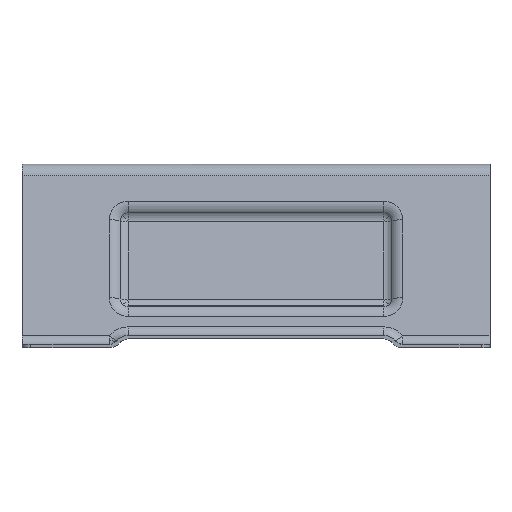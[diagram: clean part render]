
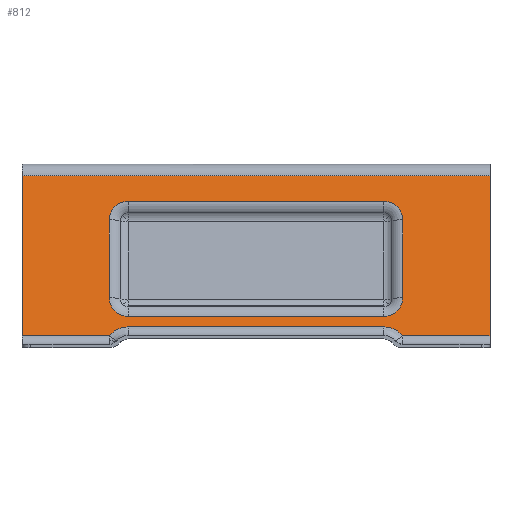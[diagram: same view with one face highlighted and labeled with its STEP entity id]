
A CAD part, left-side view. The second image highlights one B-rep face of the part: STEP entity #812.
In plain terms, the highlighted planar face has unit normal (-0.979, 0, 0.203).
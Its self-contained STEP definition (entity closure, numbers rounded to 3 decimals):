
#440=CARTESIAN_POINT('Vertex',(-474.382,-861.,100.023)) ;
#443=CARTESIAN_POINT('Line Origine',(-483.738,-861.,54.853)) ;
#447=CARTESIAN_POINT('Vertex',(-493.095,-861.,9.683)) ;
#656=CARTESIAN_POINT('Vertex',(-493.095,-811.724,9.683)) ;
#666=CARTESIAN_POINT('Line Origine',(-493.095,-729.,9.683)) ;
#679=CARTESIAN_POINT('Axis2P3D Location',(-473.061,-729.,106.4)) ;
#684=CARTESIAN_POINT('Line Origine',(-492.059,-729.,14.683)) ;
#688=CARTESIAN_POINT('Vertex',(-492.059,-801.,14.683)) ;
#690=CARTESIAN_POINT('Vertex',(-492.059,-657.,14.683)) ;
#694=CARTESIAN_POINT('Control Point',(-493.095,-811.724,9.683)) ;
#695=CARTESIAN_POINT('Control Point',(-492.893,-810.91,10.654)) ;
#696=CARTESIAN_POINT('Control Point',(-492.711,-809.983,11.535)) ;
#697=CARTESIAN_POINT('Control Point',(-492.551,-808.957,12.308)) ;
#698=CARTESIAN_POINT('Control Point',(-492.293,-806.839,13.554)) ;
#699=CARTESIAN_POINT('Control Point',(-492.135,-804.496,14.315)) ;
#700=CARTESIAN_POINT('Control Point',(-492.084,-803.343,14.561)) ;
#701=CARTESIAN_POINT('Control Point',(-492.059,-802.172,14.683)) ;
#702=CARTESIAN_POINT('Control Point',(-492.059,-801.,14.683)) ;
#704=CARTESIAN_POINT('Line Origine',(-474.382,-729.,100.023)) ;
#708=CARTESIAN_POINT('Vertex',(-474.382,-597.,100.023)) ;
#711=CARTESIAN_POINT('Line Origine',(-483.738,-597.,54.853)) ;
#715=CARTESIAN_POINT('Vertex',(-493.095,-597.,9.683)) ;
#718=CARTESIAN_POINT('Line Origine',(-493.095,-621.639,9.683)) ;
#722=CARTESIAN_POINT('Vertex',(-493.095,-646.277,9.683)) ;
#726=CARTESIAN_POINT('Control Point',(-492.059,-657.,14.683)) ;
#727=CARTESIAN_POINT('Control Point',(-492.059,-655.729,14.683)) ;
#728=CARTESIAN_POINT('Control Point',(-492.089,-654.457,14.539)) ;
#729=CARTESIAN_POINT('Control Point',(-492.149,-653.208,14.249)) ;
#730=CARTESIAN_POINT('Control Point',(-492.32,-650.885,13.425)) ;
#731=CARTESIAN_POINT('Control Point',(-492.589,-648.804,12.124)) ;
#732=CARTESIAN_POINT('Control Point',(-492.74,-647.873,11.396)) ;
#733=CARTESIAN_POINT('Control Point',(-492.909,-647.027,10.578)) ;
#734=CARTESIAN_POINT('Control Point',(-493.095,-646.277,9.683)) ;
#746=CARTESIAN_POINT('Line Origine',(-477.377,-729.,85.561)) ;
#750=CARTESIAN_POINT('Vertex',(-477.377,-801.,85.561)) ;
#752=CARTESIAN_POINT('Vertex',(-477.377,-657.,85.561)) ;
#755=CARTESIAN_POINT('Axis2P3D Location',(-479.552,-801.,75.06)) ;
#759=CARTESIAN_POINT('Vertex',(-479.552,-811.724,75.06)) ;
#762=CARTESIAN_POINT('Line Origine',(-484.11,-811.724,53.06)) ;
#766=CARTESIAN_POINT('Vertex',(-488.667,-811.724,31.06)) ;
#769=CARTESIAN_POINT('Axis2P3D Location',(-488.667,-801.,31.06)) ;
#773=CARTESIAN_POINT('Vertex',(-490.842,-801.,20.559)) ;
#776=CARTESIAN_POINT('Line Origine',(-490.842,-729.,20.559)) ;
#780=CARTESIAN_POINT('Vertex',(-490.842,-657.,20.559)) ;
#783=CARTESIAN_POINT('Axis2P3D Location',(-488.667,-657.,31.06)) ;
#787=CARTESIAN_POINT('Vertex',(-488.667,-646.277,31.06)) ;
#790=CARTESIAN_POINT('Line Origine',(-484.11,-646.277,53.06)) ;
#794=CARTESIAN_POINT('Vertex',(-479.552,-646.277,75.06)) ;
#797=CARTESIAN_POINT('Axis2P3D Location',(-479.552,-657.,75.06)) ;
#444=DIRECTION('Vector Direction',(-0.203,0.,-0.979)) ;
#667=DIRECTION('Vector Direction',(0.,1.,0.)) ;
#680=DIRECTION('Axis2P3D Direction',(0.979,0.,-0.203)) ;
#681=DIRECTION('Axis2P3D XDirection',(-0.203,0.,-0.979)) ;
#685=DIRECTION('Vector Direction',(0.,-1.,0.)) ;
#705=DIRECTION('Vector Direction',(0.,1.,0.)) ;
#712=DIRECTION('Vector Direction',(-0.203,0.,-0.979)) ;
#719=DIRECTION('Vector Direction',(0.,1.,0.)) ;
#747=DIRECTION('Vector Direction',(0.,-1.,0.)) ;
#756=DIRECTION('Axis2P3D Direction',(0.979,0.,-0.203)) ;
#763=DIRECTION('Vector Direction',(-0.203,0.,-0.979)) ;
#770=DIRECTION('Axis2P3D Direction',(0.979,0.,-0.203)) ;
#777=DIRECTION('Vector Direction',(0.,1.,0.)) ;
#784=DIRECTION('Axis2P3D Direction',(0.979,0.,-0.203)) ;
#791=DIRECTION('Vector Direction',(0.203,0.,0.979)) ;
#798=DIRECTION('Axis2P3D Direction',(0.979,0.,-0.203)) ;
#682=AXIS2_PLACEMENT_3D('Plane Axis2P3D',#679,#680,#681) ;
#757=AXIS2_PLACEMENT_3D('Circle Axis2P3D',#755,#756,$) ;
#771=AXIS2_PLACEMENT_3D('Circle Axis2P3D',#769,#770,$) ;
#785=AXIS2_PLACEMENT_3D('Circle Axis2P3D',#783,#784,$) ;
#799=AXIS2_PLACEMENT_3D('Circle Axis2P3D',#797,#798,$) ;
#737=ORIENTED_EDGE('',*,*,#692,.F.) ;
#738=ORIENTED_EDGE('',*,*,#703,.F.) ;
#739=ORIENTED_EDGE('',*,*,#670,.F.) ;
#740=ORIENTED_EDGE('',*,*,#449,.F.) ;
#741=ORIENTED_EDGE('',*,*,#710,.T.) ;
#742=ORIENTED_EDGE('',*,*,#717,.T.) ;
#743=ORIENTED_EDGE('',*,*,#724,.F.) ;
#744=ORIENTED_EDGE('',*,*,#735,.F.) ;
#803=ORIENTED_EDGE('',*,*,#754,.F.) ;
#804=ORIENTED_EDGE('',*,*,#761,.F.) ;
#805=ORIENTED_EDGE('',*,*,#768,.F.) ;
#806=ORIENTED_EDGE('',*,*,#775,.F.) ;
#807=ORIENTED_EDGE('',*,*,#782,.F.) ;
#808=ORIENTED_EDGE('',*,*,#789,.F.) ;
#809=ORIENTED_EDGE('',*,*,#796,.F.) ;
#810=ORIENTED_EDGE('',*,*,#801,.F.) ;
#811=FACE_BOUND('',#802,.T.) ;
#445=VECTOR('Line Direction',#444,1.) ;
#668=VECTOR('Line Direction',#667,1.) ;
#686=VECTOR('Line Direction',#685,1.) ;
#706=VECTOR('Line Direction',#705,1.) ;
#713=VECTOR('Line Direction',#712,1.) ;
#720=VECTOR('Line Direction',#719,1.) ;
#748=VECTOR('Line Direction',#747,1.) ;
#764=VECTOR('Line Direction',#763,1.) ;
#778=VECTOR('Line Direction',#777,1.) ;
#792=VECTOR('Line Direction',#791,1.) ;
#812=ADVANCED_FACE('SHT0016145-\X2\5BBD8F664E3B9A7E9A76524D4FA794A391D1\X0\',(#745,#811),#683,.F.) ;
#693=B_SPLINE_CURVE_WITH_KNOTS('',5,(#694,#695,#696,#697,#698,#699,#700,#701,#702),.UNSPECIFIED.,.F.,.U.,(6,3,6),(0.,9.094,17.391),.UNSPECIFIED.) ;
#725=B_SPLINE_CURVE_WITH_KNOTS('',5,(#726,#727,#728,#729,#730,#731,#732,#733,#734),.UNSPECIFIED.,.F.,.U.,(6,3,6),(0.,9.01,17.391),.UNSPECIFIED.) ;
#758=CIRCLE('generated circle',#757,10.724) ;
#772=CIRCLE('generated circle',#771,10.724) ;
#786=CIRCLE('generated circle',#785,10.724) ;
#800=CIRCLE('generated circle',#799,10.724) ;
#449=EDGE_CURVE('',#441,#448,#446,.T.) ;
#670=EDGE_CURVE('',#448,#657,#669,.T.) ;
#692=EDGE_CURVE('',#689,#691,#687,.F.) ;
#703=EDGE_CURVE('',#657,#689,#693,.T.) ;
#710=EDGE_CURVE('',#441,#709,#707,.T.) ;
#717=EDGE_CURVE('',#709,#716,#714,.T.) ;
#724=EDGE_CURVE('',#723,#716,#721,.T.) ;
#735=EDGE_CURVE('',#691,#723,#725,.T.) ;
#754=EDGE_CURVE('',#751,#753,#749,.F.) ;
#761=EDGE_CURVE('',#760,#751,#758,.F.) ;
#768=EDGE_CURVE('',#767,#760,#765,.F.) ;
#775=EDGE_CURVE('',#774,#767,#772,.F.) ;
#782=EDGE_CURVE('',#781,#774,#779,.F.) ;
#789=EDGE_CURVE('',#788,#781,#786,.F.) ;
#796=EDGE_CURVE('',#795,#788,#793,.F.) ;
#801=EDGE_CURVE('',#753,#795,#800,.F.) ;
#736=EDGE_LOOP('',(#737,#738,#739,#740,#741,#742,#743,#744)) ;
#802=EDGE_LOOP('',(#803,#804,#805,#806,#807,#808,#809,#810)) ;
#745=FACE_OUTER_BOUND('',#736,.T.) ;
#446=LINE('Line',#443,#445) ;
#669=LINE('Line',#666,#668) ;
#687=LINE('Line',#684,#686) ;
#707=LINE('Line',#704,#706) ;
#714=LINE('Line',#711,#713) ;
#721=LINE('Line',#718,#720) ;
#749=LINE('Line',#746,#748) ;
#765=LINE('Line',#762,#764) ;
#779=LINE('Line',#776,#778) ;
#793=LINE('Line',#790,#792) ;
#683=PLANE('Plane',#682) ;
#441=VERTEX_POINT('',#440) ;
#448=VERTEX_POINT('',#447) ;
#657=VERTEX_POINT('',#656) ;
#689=VERTEX_POINT('',#688) ;
#691=VERTEX_POINT('',#690) ;
#709=VERTEX_POINT('',#708) ;
#716=VERTEX_POINT('',#715) ;
#723=VERTEX_POINT('',#722) ;
#751=VERTEX_POINT('',#750) ;
#753=VERTEX_POINT('',#752) ;
#760=VERTEX_POINT('',#759) ;
#767=VERTEX_POINT('',#766) ;
#774=VERTEX_POINT('',#773) ;
#781=VERTEX_POINT('',#780) ;
#788=VERTEX_POINT('',#787) ;
#795=VERTEX_POINT('',#794) ;
